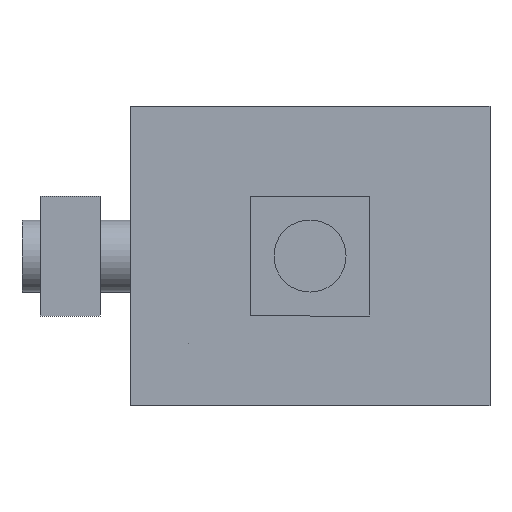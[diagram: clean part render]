
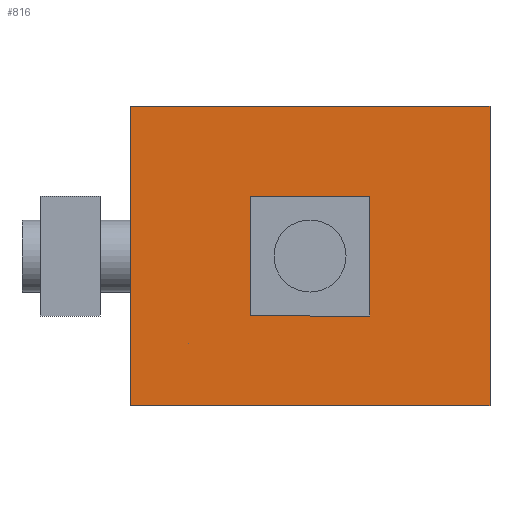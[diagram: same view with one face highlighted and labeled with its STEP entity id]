
A CAD part, front view. The second image highlights one B-rep face of the part: STEP entity #816.
In plain terms, the highlighted planar face has unit normal (0, -1, 0).
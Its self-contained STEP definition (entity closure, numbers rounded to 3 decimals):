
#460=CARTESIAN_POINT('',(18.3,0.,0.));
#461=VERTEX_POINT('',#460);
#462=CARTESIAN_POINT('',(15.,0.,0.0));
#463=DIRECTION('',(0.0,1.0,0.0));
#464=DIRECTION('',(-1.0,0.0,0.0));
#465=AXIS2_PLACEMENT_3D('',#462,#463,#464);
#466=CIRCLE('',#465,3.3);
#467=EDGE_CURVE('',#461,#461,#466,.T.);
#625=CARTESIAN_POINT('',(0.0,0.0,-12.5));
#626=VERTEX_POINT('',#625);
#627=CARTESIAN_POINT('',(30.,0.,-12.5));
#628=VERTEX_POINT('',#627);
#629=CARTESIAN_POINT('',(0.0,0.0,-12.5));
#630=DIRECTION('',(1.0,0.0,0.0));
#631=VECTOR('',#630,30.);
#632=LINE('',#629,#631);
#633=EDGE_CURVE('',#626,#628,#632,.T.);
#771=CARTESIAN_POINT('',(30.,0.,12.5));
#772=VERTEX_POINT('',#771);
#779=CARTESIAN_POINT('',(30.,0.,12.5));
#780=DIRECTION('',(0.0,0.0,-1.0));
#781=VECTOR('',#780,25.);
#782=LINE('',#779,#781);
#783=EDGE_CURVE('',#772,#628,#782,.T.);
#790=CARTESIAN_POINT('',(30.,0.,0.0));
#791=DIRECTION('',(0.0,-1.0,0.0));
#792=DIRECTION('',(0.0,0.0,-1.0));
#793=AXIS2_PLACEMENT_3D('',#790,#791,#792);
#794=PLANE('',#793);
#795=CARTESIAN_POINT('',(0.0,0.0,12.5));
#796=VERTEX_POINT('',#795);
#797=CARTESIAN_POINT('',(30.,0.,12.5));
#798=DIRECTION('',(-1.0,0.0,0.0));
#799=VECTOR('',#798,30.);
#800=LINE('',#797,#799);
#801=EDGE_CURVE('',#772,#796,#800,.T.);
#802=ORIENTED_EDGE('',*,*,#801,.T.);
#803=CARTESIAN_POINT('',(0.0,0.0,-12.5));
#804=DIRECTION('',(0.0,0.0,1.0));
#805=VECTOR('',#804,25.);
#806=LINE('',#803,#805);
#807=EDGE_CURVE('',#626,#796,#806,.T.);
#808=ORIENTED_EDGE('',*,*,#807,.F.);
#809=ORIENTED_EDGE('',*,*,#633,.T.);
#810=ORIENTED_EDGE('',*,*,#783,.F.);
#811=EDGE_LOOP('',(#802,#808,#809,#810));
#812=FACE_OUTER_BOUND('',#811,.T.);
#813=ORIENTED_EDGE('',*,*,#467,.T.);
#814=EDGE_LOOP('',(#813));
#815=FACE_BOUND('',#814,.T.);
#816=ADVANCED_FACE('',(#812,#815),#794,.T.);
